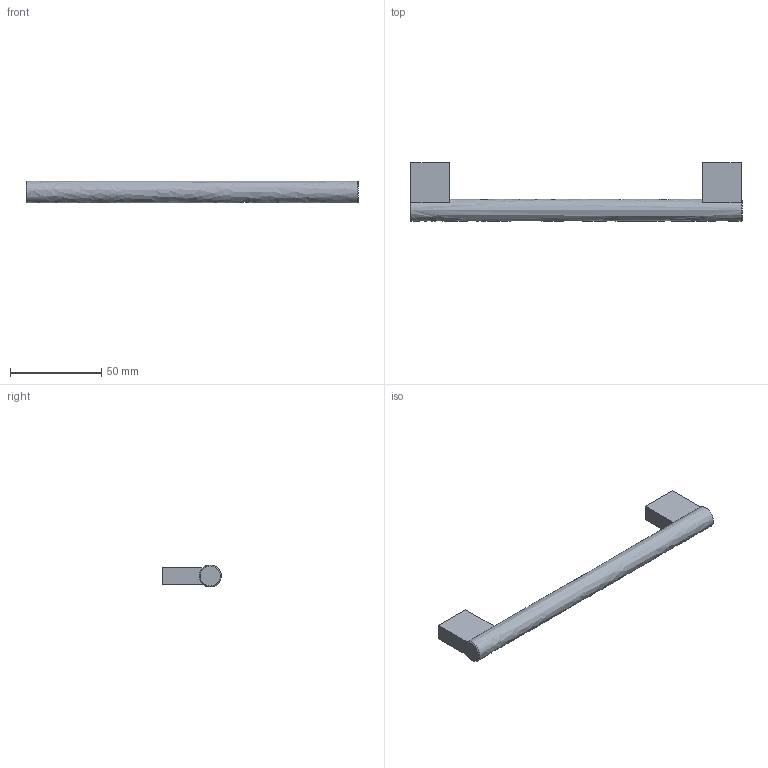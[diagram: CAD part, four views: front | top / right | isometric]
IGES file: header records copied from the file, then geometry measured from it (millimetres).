
Start section: Data from Parasolid IGES Translator 15.0.47, Copyright(c) 2006 Siemens P LM Software. All Rights Reserved.
Global section: file name:  115244.igs; native system:  By UGS Corp.; preprocessor: XPlus GENERIC/IGES 3.0; author: Noname; organization: Noname; date: 20140122.155536; units: millimetre
Bounding box: 182 x 32 x 12 mm (x, y, z)
Surface area: 9922.5 mm2 (no closed solid volume)
Topology: 0 solids, 0 shells, 19 faces, 80 edges, 76 vertices
Faces by surface type: extrusion 14, revolution 5
